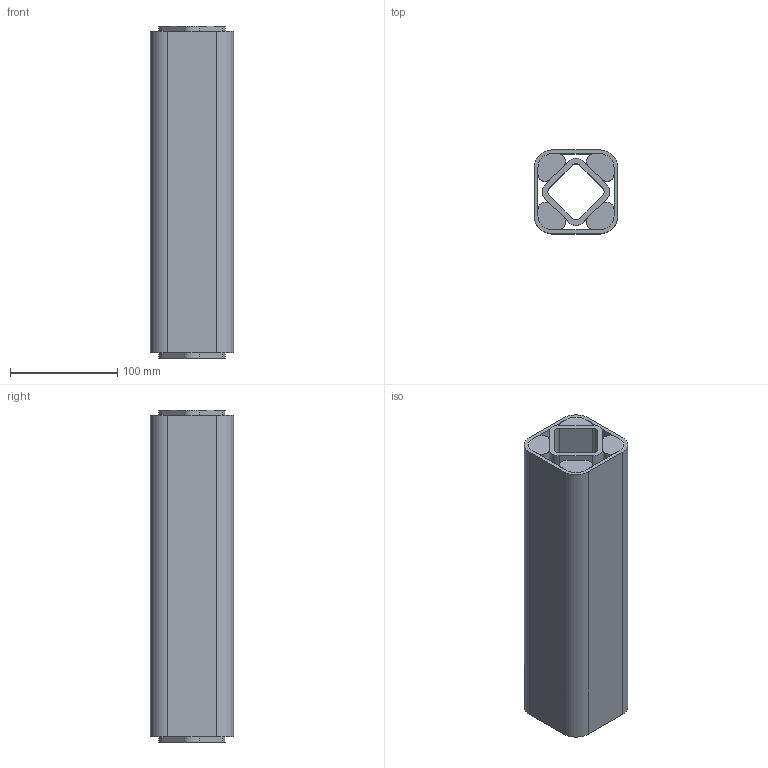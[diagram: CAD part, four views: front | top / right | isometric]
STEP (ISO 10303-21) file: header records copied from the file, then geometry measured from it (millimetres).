
FILE_DESCRIPTION((''),'2;1');
FILE_NAME('D:\ROSTA\Gummifederelemente\3D\DR-S50x300_01021021.stp','2005-02-02T09:01:12',('Administrator'),(''),'Autodesk Inventor 8','Autodesk Inventor 8','');
FILE_SCHEMA(('AUTOMOTIVE_DESIGN { 1 0 10303 214 1 1 1 1 }'));
Length unit declared in the file: millimetre
Products named in the file (4): Baugruppe3; 4.4.3731-009; 4.4.3731-010; 4.4.3731-011
Assembly tree (6 placements, depth 2):
  Baugruppe3
    4.4.3731-009
    4.4.3731-010
    4.4.3731-011  x4
Bounding box: 78 x 78 x 310 mm (x, y, z)
Volume: 1118789.5 mm3; surface area: 372435 mm2
Topology: 6 solids, 6 shells, 68 faces, 168 edges, 112 vertices
Faces by surface type: plane 40, cylinder 28
Entity records: 1491 total; most frequent: DIRECTION 260, CARTESIAN_POINT 244, ORIENTED_EDGE 228, EDGE_CURVE 114, AXIS2_PLACEMENT_3D 92, VERTEX_POINT 76, VECTOR 76, LINE 76
